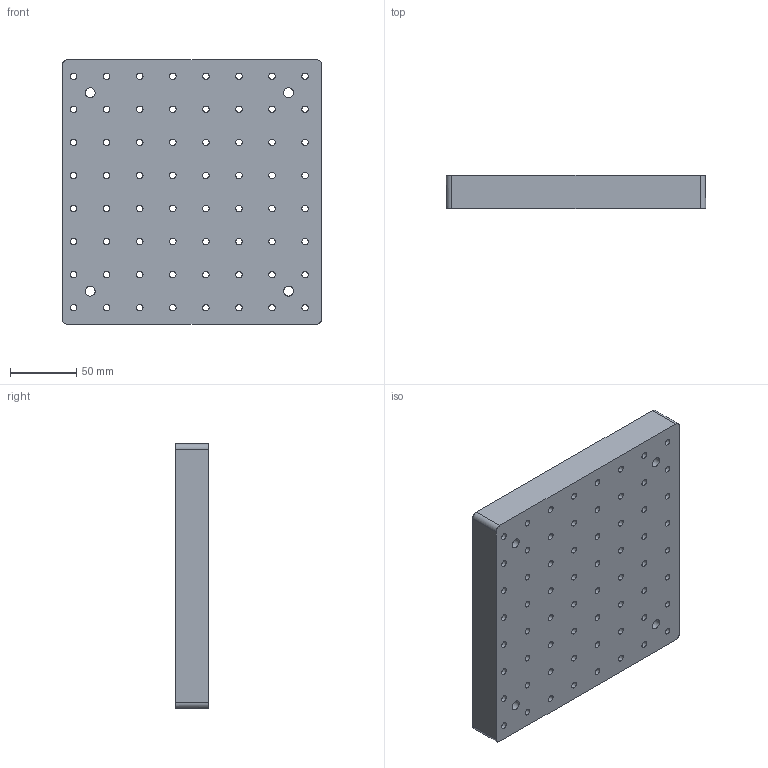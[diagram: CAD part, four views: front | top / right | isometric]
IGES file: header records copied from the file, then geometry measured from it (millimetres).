
Global section: file name: CCD-plate; native system: Autodesk Inventor 2022; preprocessor: unknown; author: Dell; date: 20251226.142929; units: millimetre
Bounding box: 196 x 25 x 200 mm (x, y, z)
Volume: 940710.4 mm3; surface area: 123148.2 mm2
Topology: 1 solids, 1 shells, 86 faces, 312 edges, 232 vertices
Faces by surface type: bspline 86
